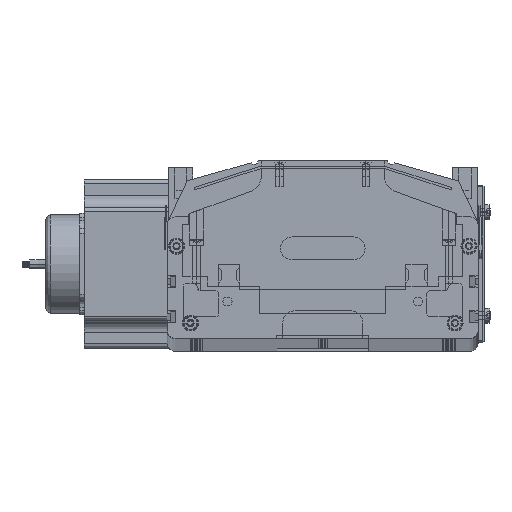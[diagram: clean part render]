
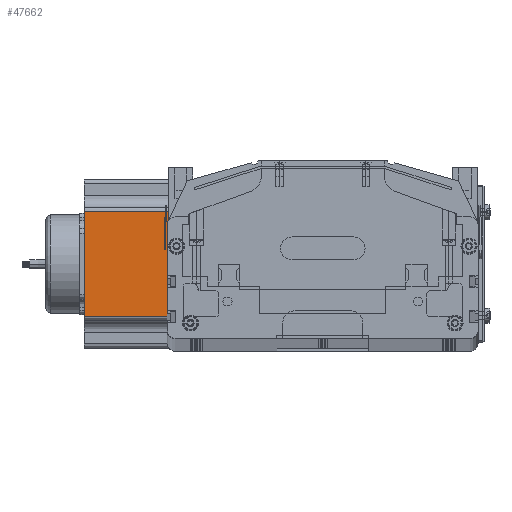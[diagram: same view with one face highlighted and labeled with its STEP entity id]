
A CAD part, top view. The second image highlights one B-rep face of the part: STEP entity #47662.
In plain terms, the highlighted planar face has unit normal (0, 0, 1) as drawn and (0, -1, 0) by its records, which use the part's own axes.
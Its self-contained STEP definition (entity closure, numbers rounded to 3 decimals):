
#26491 = VECTOR ( 'NONE', #26536, 1000. ) ;
#26536 = DIRECTION ( 'NONE',  ( 1., 0., 0. ) ) ;
#26621 = CARTESIAN_POINT ( 'NONE',  ( 0., 0., 160.5 ) ) ;
#26622 = LINE ( 'NONE', #26621, #26491 ) ;
#26623 = CARTESIAN_POINT ( 'NONE',  ( 21.048, 0., 160.5 ) ) ;
#26645 = CARTESIAN_POINT ( 'NONE',  ( 0., 0., 160.5 ) ) ;
#26676 = DIRECTION ( 'NONE',  ( 0., 0., 1. ) ) ;
#26677 = DIRECTION ( 'NONE',  ( 0., 1., 0. ) ) ;
#26682 = DIRECTION ( 'NONE',  ( 1., 0., 0. ) ) ;
#26683 = VECTOR ( 'NONE', #26682, 1000. ) ;
#26768 = LINE ( 'NONE', #26772, #26860 ) ;
#26772 = CARTESIAN_POINT ( 'NONE',  ( 21.048, 0., 160.5 ) ) ;
#26784 = CARTESIAN_POINT ( 'NONE',  ( 0., 0., 0. ) ) ;
#26785 = AXIS2_PLACEMENT_3D ( 'NONE', #26645, #26677, #26676 ) ;
#26788 = PLANE ( 'NONE',  #26785 ) ;
#26791 = FACE_OUTER_BOUND ( 'NONE', #47626, .T. ) ;
#26793 = DIRECTION ( 'NONE',  ( 0., 0., 1. ) ) ;
#26794 = VECTOR ( 'NONE', #26793, 1000. ) ;
#26795 = LINE ( 'NONE', #26784, #26683 ) ;
#26796 = CARTESIAN_POINT ( 'NONE',  ( 88.952, 0., 160.5 ) ) ;
#26797 = LINE ( 'NONE', #26796, #26794 ) ;
#26800 = CARTESIAN_POINT ( 'NONE',  ( 88.952, 0., 0. ) ) ;
#26808 = CARTESIAN_POINT ( 'NONE',  ( 88.952, 0., 160.5 ) ) ;
#26848 = CARTESIAN_POINT ( 'NONE',  ( 21.048, 0., 0. ) ) ;
#26859 = DIRECTION ( 'NONE',  ( 0., 0., -1. ) ) ;
#26860 = VECTOR ( 'NONE', #26859, 1000. ) ;
#47467 = VERTEX_POINT ( 'NONE', #26623 ) ;
#47475 = ORIENTED_EDGE ( 'NONE', *, *, #47502, .F. ) ;
#47502 = EDGE_CURVE ( 'NONE', #47467, #47649, #26622, .T. ) ;
#47595 = EDGE_CURVE ( 'NONE', #47467, #47620, #26768, .T. ) ;
#47597 = ORIENTED_EDGE ( 'NONE', *, *, #47595, .T. ) ;
#47601 = ORIENTED_EDGE ( 'NONE', *, *, #47654, .T. ) ;
#47620 = VERTEX_POINT ( 'NONE', #26848 ) ;
#47626 = EDGE_LOOP ( 'NONE', ( #47661, #47601, #47475, #47597 ) ) ;
#47649 = VERTEX_POINT ( 'NONE', #26808 ) ;
#47654 = EDGE_CURVE ( 'NONE', #47663, #47649, #26797, .T. ) ;
#47660 = EDGE_CURVE ( 'NONE', #47620, #47663, #26795, .T. ) ;
#47661 = ORIENTED_EDGE ( 'NONE', *, *, #47660, .T. ) ;
#47662 = ADVANCED_FACE ( 'NONE', ( #26791 ), #26788, .F. ) ;
#47663 = VERTEX_POINT ( 'NONE', #26800 ) ;
